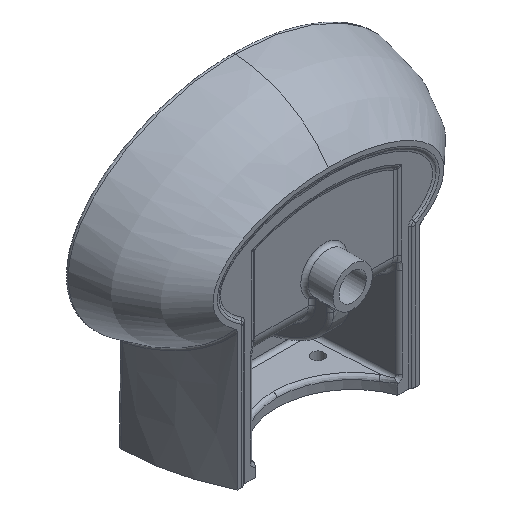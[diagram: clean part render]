
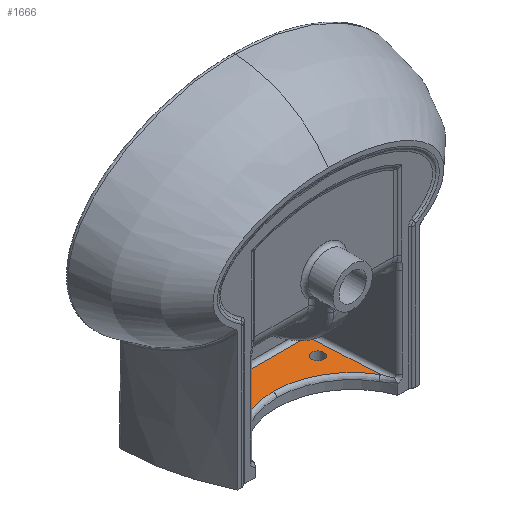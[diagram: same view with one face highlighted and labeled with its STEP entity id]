
A CAD part, isometric view. The second image highlights one B-rep face of the part: STEP entity #1666.
In plain terms, the highlighted planar face has unit normal (0, 0, 1).
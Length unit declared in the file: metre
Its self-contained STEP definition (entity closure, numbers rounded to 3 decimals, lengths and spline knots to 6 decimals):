
#135=FACE_BOUND('',#379,.T.);
#136=FACE_BOUND('',#380,.T.);
#154=CIRCLE('',#1797,0.131);
#155=CIRCLE('',#1798,0.131);
#156=CIRCLE('',#1799,0.01);
#157=CIRCLE('',#1800,0.01);
#256=FACE_OUTER_BOUND('',#378,.T.);
#378=EDGE_LOOP('',(#1159,#1160,#1161,#1162,#1163));
#379=EDGE_LOOP('',(#1164));
#380=EDGE_LOOP('',(#1165));
#603=LINE('',#4138,#660);
#604=LINE('',#4140,#661);
#605=LINE('',#4141,#662);
#660=VECTOR('',#2010,0.114169);
#661=VECTOR('',#2011,0.213205);
#662=VECTOR('',#2012,0.114169);
#739=VERTEX_POINT('',#4132);
#740=VERTEX_POINT('',#4133);
#741=VERTEX_POINT('',#4135);
#742=VERTEX_POINT('',#4137);
#743=VERTEX_POINT('',#4139);
#744=VERTEX_POINT('',#4142);
#745=VERTEX_POINT('',#4144);
#895=EDGE_CURVE('',#739,#740,#154,.T.);
#896=EDGE_CURVE('',#741,#740,#155,.T.);
#897=EDGE_CURVE('',#742,#741,#603,.T.);
#898=EDGE_CURVE('',#742,#743,#604,.F.);
#899=EDGE_CURVE('',#743,#739,#605,.T.);
#900=EDGE_CURVE('',#744,#744,#156,.T.);
#901=EDGE_CURVE('',#745,#745,#157,.T.);
#1159=ORIENTED_EDGE('',*,*,#895,.T.);
#1160=ORIENTED_EDGE('',*,*,#896,.F.);
#1161=ORIENTED_EDGE('',*,*,#897,.F.);
#1162=ORIENTED_EDGE('',*,*,#898,.T.);
#1163=ORIENTED_EDGE('',*,*,#899,.T.);
#1164=ORIENTED_EDGE('',*,*,#900,.F.);
#1165=ORIENTED_EDGE('',*,*,#901,.T.);
#1651=PLANE('',#1796);
#1666=ADVANCED_FACE('',(#256,#135,#136),#1651,.F.);
#1796=AXIS2_PLACEMENT_3D('',#4131,#2004,#2005);
#1797=AXIS2_PLACEMENT_3D('',#4134,#2006,#2007);
#1798=AXIS2_PLACEMENT_3D('',#4136,#2008,#2009);
#1799=AXIS2_PLACEMENT_3D('',#4143,#2013,#2014);
#1800=AXIS2_PLACEMENT_3D('',#4145,#2015,#2016);
#2004=DIRECTION('center_axis',(0.,0.,
-1.));
#2005=DIRECTION('ref_axis',(-1.,0.,0.));
#2006=DIRECTION('center_axis',(0.,0.,
-1.));
#2007=DIRECTION('ref_axis',(0.,-1.,0.));
#2008=DIRECTION('center_axis',(0.,0.,
1.));
#2009=DIRECTION('ref_axis',(0.,-1.,0.));
#2010=DIRECTION('',(0.052,-0.999,0.));
#2011=DIRECTION('',(1.,0.,0.));
#2012=DIRECTION('',(-0.052,-0.999,0.));
#2013=DIRECTION('center_axis',(0.,0.,
1.));
#2014=DIRECTION('ref_axis',(0.,-1.,0.));
#2015=DIRECTION('center_axis',(0.,0.,
-1.));
#2016=DIRECTION('ref_axis',(0.,-1.,0.));
#4131=CARTESIAN_POINT('Origin',(-0.345675,-0.013,-0.268079));
#4132=CARTESIAN_POINT('',(-0.112577,-0.133013,-0.268079));
#4133=CARTESIAN_POINT('',(0.,-0.069,-0.268079));
#4134=CARTESIAN_POINT('Origin',(0.,-0.2,
-0.268079));
#4135=CARTESIAN_POINT('',(0.112577,-0.133013,-0.268079));
#4136=CARTESIAN_POINT('Origin',(0.,-0.2,
-0.268079));
#4137=CARTESIAN_POINT('',(0.106602,-0.019,-0.268079));
#4138=CARTESIAN_POINT('',(0.106602,-0.019,-0.268079));
#4139=CARTESIAN_POINT('',(-0.106602,-0.019,-0.268079));
#4140=CARTESIAN_POINT('',(-0.106602,-0.019,-0.268079));
#4141=CARTESIAN_POINT('',(-0.106602,-0.019,-0.268079));
#4142=CARTESIAN_POINT('',(0.0875,-0.065,-0.268079));
#4143=CARTESIAN_POINT('Origin',(0.0875,-0.055,-0.268079));
#4144=CARTESIAN_POINT('',(-0.0875,-0.065,-0.268079));
#4145=CARTESIAN_POINT('Origin',(-0.0875,-0.055,-0.268079));
